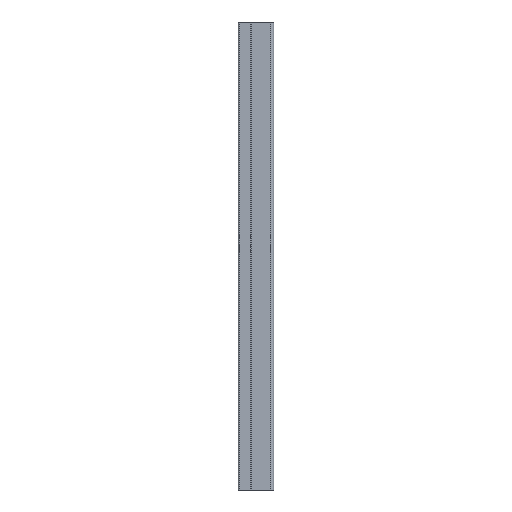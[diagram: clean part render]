
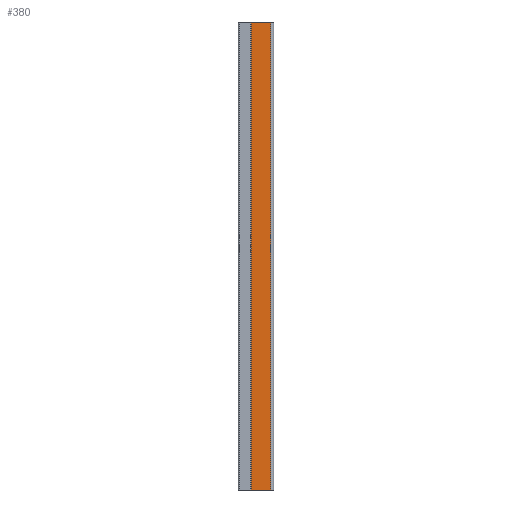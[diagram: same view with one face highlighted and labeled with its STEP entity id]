
A CAD part, left-side view. The second image highlights one B-rep face of the part: STEP entity #380.
In plain terms, the highlighted planar face has unit normal (-1, 0, 0).
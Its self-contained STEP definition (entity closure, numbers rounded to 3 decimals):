
#99 = AXIS2_PLACEMENT_3D ( 'NONE', #444, #809, #1186 ) ;
#131 = CARTESIAN_POINT ( 'NONE',  ( -12.5, 14.509, -250. ) ) ;
#139 = VERTEX_POINT ( 'NONE', #209 ) ;
#145 = LINE ( 'NONE', #131, #837 ) ;
#209 = CARTESIAN_POINT ( 'NONE',  ( -12.5, 9.791, -250. ) ) ;
#279 = CARTESIAN_POINT ( 'NONE',  ( -12.5, 9.791, -250. ) ) ;
#281 = CARTESIAN_POINT ( 'NONE',  ( -12.5, -11.509, -250. ) ) ;
#285 = VERTEX_POINT ( 'NONE', #1008 ) ;
#324 = ORIENTED_EDGE ( 'NONE', *, *, #839, .T. ) ;
#368 = FACE_OUTER_BOUND ( 'NONE', #766, .T. ) ;
#380 = ADVANCED_FACE ( 'NONE', ( #368 ), #1112, .T. ) ;
#442 = VERTEX_POINT ( 'NONE', #281 ) ;
#444 = CARTESIAN_POINT ( 'NONE',  ( -12.5, 14.509, 250. ) ) ;
#471 = ORIENTED_EDGE ( 'NONE', *, *, #708, .T. ) ;
#512 = VECTOR ( 'NONE', #944, 1000. ) ;
#521 = DIRECTION ( 'NONE',  ( 0., 1., 0. ) ) ;
#527 = EDGE_CURVE ( 'NONE', #442, #139, #145, .T. ) ;
#534 = DIRECTION ( 'NONE',  ( 0., 1., 0. ) ) ;
#638 = LINE ( 'NONE', #728, #1074 ) ;
#649 = DIRECTION ( 'NONE',  ( 0., 0., 1. ) ) ;
#708 = EDGE_CURVE ( 'NONE', #285, #778, #638, .T. ) ;
#728 = CARTESIAN_POINT ( 'NONE',  ( -12.5, 14.509, 250. ) ) ;
#766 = EDGE_LOOP ( 'NONE', ( #1165, #1057, #324, #471 ) ) ;
#778 = VERTEX_POINT ( 'NONE', #833 ) ;
#809 = DIRECTION ( 'NONE',  ( -1., 0., 0. ) ) ;
#830 = EDGE_CURVE ( 'NONE', #139, #778, #1119, .T. ) ;
#833 = CARTESIAN_POINT ( 'NONE',  ( -12.5, 9.791, 250. ) ) ;
#837 = VECTOR ( 'NONE', #521, 1000. ) ;
#839 = EDGE_CURVE ( 'NONE', #442, #285, #1124, .T. ) ;
#840 = VECTOR ( 'NONE', #649, 1000. ) ;
#944 = DIRECTION ( 'NONE',  ( 0., 0., 1. ) ) ;
#1008 = CARTESIAN_POINT ( 'NONE',  ( -12.5, -11.509, 250. ) ) ;
#1030 = CARTESIAN_POINT ( 'NONE',  ( -12.5, -11.509, 250. ) ) ;
#1057 = ORIENTED_EDGE ( 'NONE', *, *, #527, .F. ) ;
#1074 = VECTOR ( 'NONE', #534, 1000. ) ;
#1112 = PLANE ( 'NONE',  #99 ) ;
#1119 = LINE ( 'NONE', #279, #512 ) ;
#1124 = LINE ( 'NONE', #1030, #840 ) ;
#1165 = ORIENTED_EDGE ( 'NONE', *, *, #830, .F. ) ;
#1186 = DIRECTION ( 'NONE',  ( 0., 0., 1. ) ) ;
